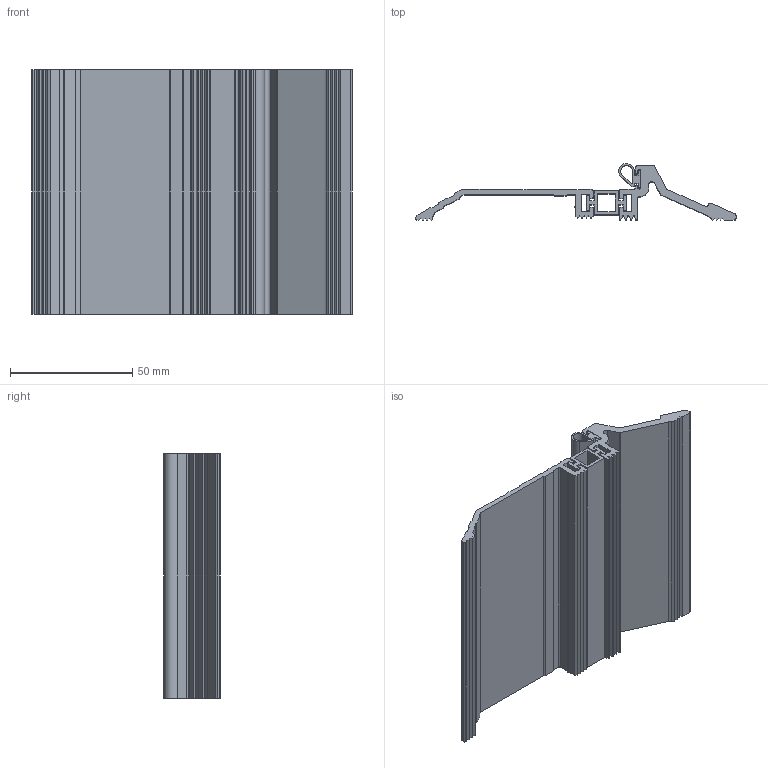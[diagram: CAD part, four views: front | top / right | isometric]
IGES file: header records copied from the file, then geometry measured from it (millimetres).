
Global section: file name: No Iges File Name specified; native system: Autodesk Inventor 2012; preprocessor: AutoDesk Inventor Iges Exporter R2012; author: anna.b; date: 20130718.132536; units: millimetre
Bounding box: 131.04 x 23.13 x 100 mm (x, y, z)
Volume: 57274.9 mm3; surface area: 54447.5 mm2
Topology: 4 solids, 4 shells, 211 faces, 609 edges, 406 vertices
Faces by surface type: plane 161, cylinder 28, revolution 22
